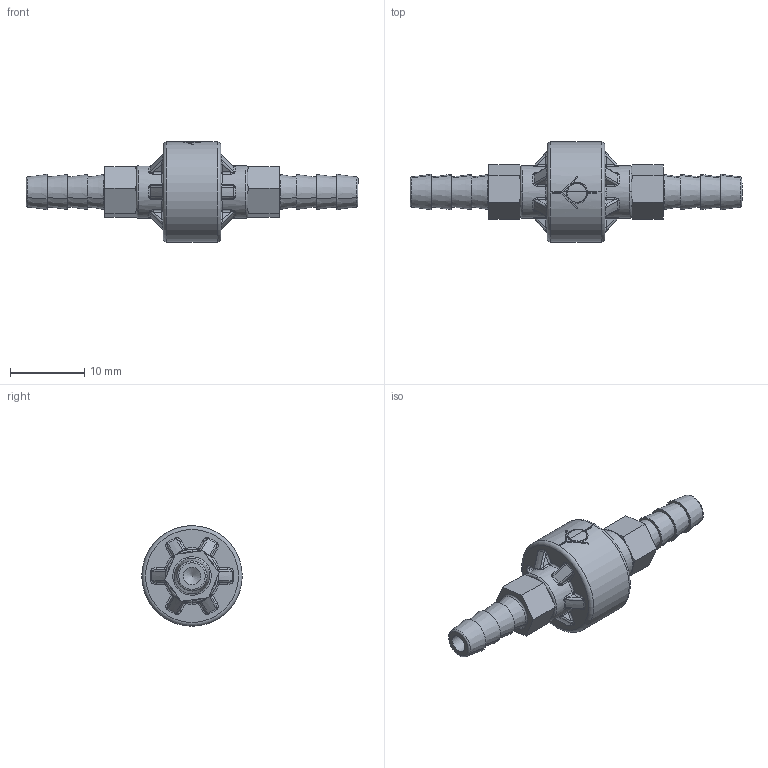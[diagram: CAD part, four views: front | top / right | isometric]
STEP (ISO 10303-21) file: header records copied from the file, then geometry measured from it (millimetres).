
FILE_DESCRIPTION(/* description */ ('SolidWorks IGES file using NURBS representation for surfaces '),/* implementation_level */ '2;1');
FILE_NAME(/* name */ 'K:\Normteile INVENTOR\Air-Logic\Check Valves\F-2804-404-B85.IGS.ipt.stp',/* time_stamp */ '2020-05-27T10:36:36+02:00',/* author */ ('amarsh'),/* organization */ (''),/* preprocessor_version */ 'ST-DEVELOPER v18',/* originating_system */ 'Autodesk Inventor 2020',/* authorisation */ '');
FILE_SCHEMA (('AUTOMOTIVE_DESIGN { 1 0 10303 214 3 1 1 }'));
Length unit declared in the file: millimetre
Products named in the file (1): F-2804-404-B85.IGS
Bounding box: 44.62 x 13.5 x 13.5 mm (x, y, z)
Volume: 573.1 mm3; surface area: 2056.9 mm2
Topology: 3 solids, 5 shells, 368 faces, 888 edges, 528 vertices
Faces by surface type: cylinder 100, bspline 89, plane 64, torus 53, cone 38, sphere 24
Full cylindrical faces by diameter (mm): 1.3 x1, 4.039 x2, 4.75 x8, 4.9 x2, 7.1 x2
Entity records: 22779 total; most frequent: CARTESIAN_POINT 14694, ORIENTED_EDGE 1736, DIRECTION 1603, EDGE_CURVE 872, AXIS2_PLACEMENT_3D 690, VERTEX_POINT 528, CIRCLE 392, EDGE_LOOP 390
